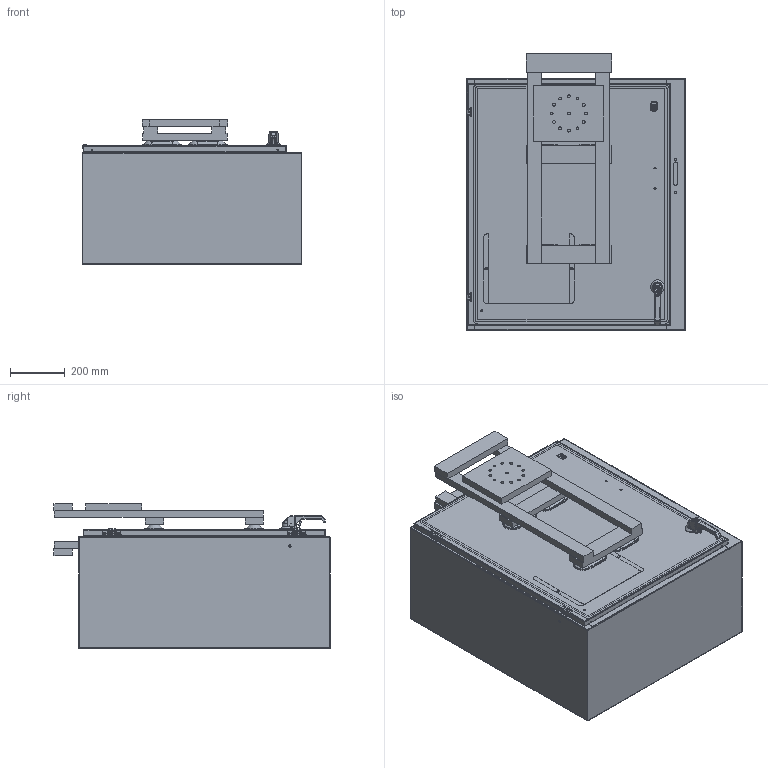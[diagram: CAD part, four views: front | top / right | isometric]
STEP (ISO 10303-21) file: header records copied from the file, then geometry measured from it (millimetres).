
FILE_DESCRIPTION((''),'2;1');
FILE_NAME('MODEL-313_ASM','2021-05-11T10:58:54',('chads'),('SAGINAW CONTROL & ENGINEERING'),'CREO PARAMETRIC BY PTC INC, 2017260','CREO PARAMETRIC BY PTC INC, 2017260','');
FILE_SCHEMA(('AUTOMOTIVE_DESIGN { 1 0 10303 214 1 1 1 1 }'));
Length unit declared in the file: inch
Products named in the file (51): MODEL-313-BDY; MODEL-313-TP; MODEL-313-BTM; MODEL-313-DR; 100837; 100882; 111267; 100953_HANDLE; 100953_HANDLE_INSERT; 100953_SHAFT_CAM; 100953_ADAPTER_CAM; 100953_NUT_CAM; 100953_BASE; 100953_O-RING; 100953_WASHER_SEALING; 100953_NUT_MOUNTING_LARGE; 100953_NUT_MOUNTING_SMALL; 100953_SCREW_SMALL; 100953_INSERT; 100953_PADLOCK_CATCH; 100953_ASM; 128142; 100030; 128142_ASM; MODEL-313-ROD-UPR; 128146; 128145; 128144; 102482; MODEL-313-ROD-UPR_ASM; 128143; 112504; MODEL-313-GSKT; 126391; 126397; 126391_ASM; 126393; 102483; 101226; 101376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
Assembly tree (82 placements, depth 4):
  MODEL-313_ASM
    MODEL-313-BDY
    MODEL-313-TP
    MODEL-313-BTM
    MODEL-313-DOOR-ASSY_ASM
      MODEL-313-DR
      100837  x6
      100882  x3
      111267
      100953_ASM
        100953_HANDLE
        100953_HANDLE_INSERT
        100953_SHAFT_CAM
        100953_ADAPTER_CAM
        100953_NUT_CAM
        100953_BASE
        100953_O-RING
        100953_WASHER_SEALING
        100953_NUT_MOUNTING_LARGE
        100953_NUT_MOUNTING_SMALL
        100953_SCREW_SMALL
        100953_INSERT
        100953_PADLOCK_CATCH
      128142_ASM
        128142
        100030  x2
      MODEL-313-ROD-UPR_ASM
        MODEL-313-ROD-UPR
        128146
        128145
        128144
        102482  x2
      128143
      112504
      MODEL-313-GSKT
      126391_ASM  x2
        126391
        126397
      126393  x2
      102483  x6
      101226  x2
      101376  x2
      102140  x2
      DAPUP_ASM
        DAPUP  x2
    100837  x2
    101653  x6
    103357
    122192
    SUBPANEL-SUBASSEMBLY_ASM
      SUBPANEL
      100904  x6
Bounding box: 796.92 x 1004.17 x 527.35 mm (x, y, z)
Volume: 18341799.6 mm3; surface area: 8858201.5 mm2
Topology: 80 solids, 80 shells, 5825 faces, 14886 edges, 9255 vertices
Faces by surface type: plane 2058, cylinder 1652, bspline 890, cone 573, torus 482, sphere 170
Entity records: 215897 total; most frequent: CARTESIAN_POINT 71794, ORIENTED_EDGE 21294, DIRECTION 19824, PRESENTATION_STYLE_ASSIGNMENT 11025, STYLED_ITEM 10691, CURVE_STYLE 10647, EDGE_CURVE 10647, AXIS2_PLACEMENT_3D 7452
